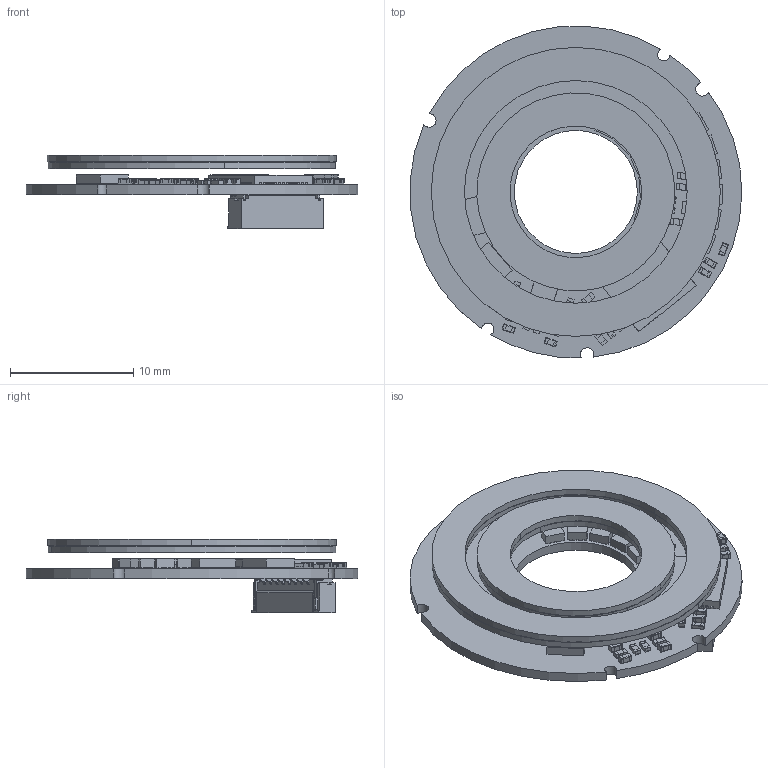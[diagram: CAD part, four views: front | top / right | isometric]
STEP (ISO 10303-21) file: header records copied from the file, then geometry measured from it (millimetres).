
FILE_DESCRIPTION((''),'2;1');
FILE_NAME('EAS-J30KP-HD耀倰芞_ASM','2026-09-02T',('guxinfeng'),(''),'PRO/ENGINEER BY PARAMETRIC TECHNOLOGY CORPORATION, 2012480','PRO/ENGINEER BY PARAMETRIC TECHNOLOGY CORPORATION, 2012480','');
FILE_SCHEMA(('CONFIG_CONTROL_DESIGN'));
Products named in the file (181): S1-278_1; S1-381_1; S1-484_1; 0_ASM_1_ASM; PDW_10_7_16_1_1_1_18_ASM_1_ASM; S1-470_1; S1-609_1; S1-712_1; ASM0053_ASM_1_ASM; P8N_18_1_23_5_1_1_38_ASM_1_ASM; OPEN_CASCADE_STEP_TRANSLATO-238; ASM0002_ASM_1_ASM; OPEN_CASCADE_STEP_TRANSLATO-729; OPEN_CASCADE_STEP_TRANSLAT-1202; TERMINAL-715_ASM_1_ASM; OPEN_CASCADE_STEP_TRANSLAT-1698; MID_BODY-1688_ASM_1_ASM; 10463178256_ASM_1_ASM; ASM0003_ASM_1_ASM; ASM0004_ASM_1_ASM; OPEN_CASCADE_STEP_TRANSLAT-2112; OPEN_CASCADE_STEP_TRANSLAT-2585; TERMINAL-2098_ASM_1_ASM; OPEN_CASCADE_STEP_TRANSLAT-3081; MID_BODY-3071_ASM_1_ASM; 6191620464_ASM_1_ASM; ASM0005_ASM_1_ASM; OPEN_CASCADE_STEP_TRANSLAT-3467; OPEN_CASCADE_STEP_TRANSLAT-3940; TERMINAL-3453_ASM_1_ASM; OPEN_CASCADE_STEP_TRANSLAT-4436; MID_BODY-4426_ASM_1_ASM; 9251707616_ASM_1_ASM; ASM0006_ASM_1_ASM; ASM0007_ASM_1_ASM; OPEN_CASCADE_STEP_TRANSLAT-4850; OPEN_CASCADE_STEP_TRANSLAT-5323; TERMINAL-4836_ASM_1_ASM; OPEN_CASCADE_STEP_TRANSLAT-5819; MID_BODY-5809_ASM_1_ASM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
Assembly tree (214 placements, depth 8):
  EAS-J30KP-HD耀倰芞_ASM
    EAS-J030KP-HD_____ASM_2_ASM
      PDW_10_7_16_1_1_1_18_ASM_1_ASM
        0_ASM_1_ASM
          S1-278_1
          S1-381_1
          S1-484_1
      P8N_18_1_23_5_1_1_38_ASM_1_ASM
        ASM0053_ASM_1_ASM
          S1-470_1
          S1-609_1
          S1-712_1
      EAS-J030KP-HD_V1_0_ASM_1_ASM
        ASM0001_ASM_2_ASM
          ASM0002_ASM_1_ASM
            OPEN_CASCADE_STEP_TRANSLATO-238
          ASM0003_ASM_1_ASM
            10463178256_ASM_1_ASM
              TERMINAL-715_ASM_1_ASM
                OPEN_CASCADE_STEP_TRANSLATO-729
                OPEN_CASCADE_STEP_TRANSLAT-1202
              MID_BODY-1688_ASM_1_ASM
                OPEN_CASCADE_STEP_TRANSLAT-1698
          ASM0004_ASM_1_ASM
            10463178256_ASM_1_ASM
              TERMINAL-715_ASM_1_ASM
                OPEN_CASCADE_STEP_TRANSLATO-729
                OPEN_CASCADE_STEP_TRANSLAT-1202
              MID_BODY-1688_ASM_1_ASM
                OPEN_CASCADE_STEP_TRANSLAT-1698
          ASM0005_ASM_1_ASM
            6191620464_ASM_1_ASM
              TERMINAL-2098_ASM_1_ASM
                OPEN_CASCADE_STEP_TRANSLAT-2112
                OPEN_CASCADE_STEP_TRANSLAT-2585
              MID_BODY-3071_ASM_1_ASM
                OPEN_CASCADE_STEP_TRANSLAT-3081
          ASM0006_ASM_1_ASM
            9251707616_ASM_1_ASM
              TERMINAL-3453_ASM_1_ASM
                OPEN_CASCADE_STEP_TRANSLAT-3467
                OPEN_CASCADE_STEP_TRANSLAT-3940
              MID_BODY-4426_ASM_1_ASM
                OPEN_CASCADE_STEP_TRANSLAT-4436
          ASM0007_ASM_1_ASM
            9251707616_ASM_1_ASM
              TERMINAL-3453_ASM_1_ASM
                OPEN_CASCADE_STEP_TRANSLAT-3467
                OPEN_CASCADE_STEP_TRANSLAT-3940
              MID_BODY-4426_ASM_1_ASM
                OPEN_CASCADE_STEP_TRANSLAT-4436
          ASM0008_ASM_1_ASM
            6188855744_ASM_1_ASM
              TERMINAL-4836_ASM_1_ASM
                OPEN_CASCADE_STEP_TRANSLAT-4850
                OPEN_CASCADE_STEP_TRANSLAT-5323
              MID_BODY-5809_ASM_1_ASM
                OPEN_CASCADE_STEP_TRANSLAT-5819
          ASM0009_ASM_1_ASM
            6188855744_ASM_1_ASM
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Bounding box: 26.97 x 26.97 x 5.98 mm (x, y, z)
Volume: 789.6 mm3; surface area: 3563 mm2
Topology: 150 solids, 150 shells, 3618 faces, 9875 edges, 6370 vertices
Faces by surface type: plane 2784, cylinder 702, sphere 128, cone 4
Entity records: 101346 total; most frequent: CARTESIAN_POINT 14146, DIRECTION 13361, ORIENTED_EDGE 13146, PRESENTATION_STYLE_ASSIGNMENT 6745, STYLED_ITEM 6637, EDGE_CURVE 6573, CURVE_STYLE 6525, VECTOR 5569
